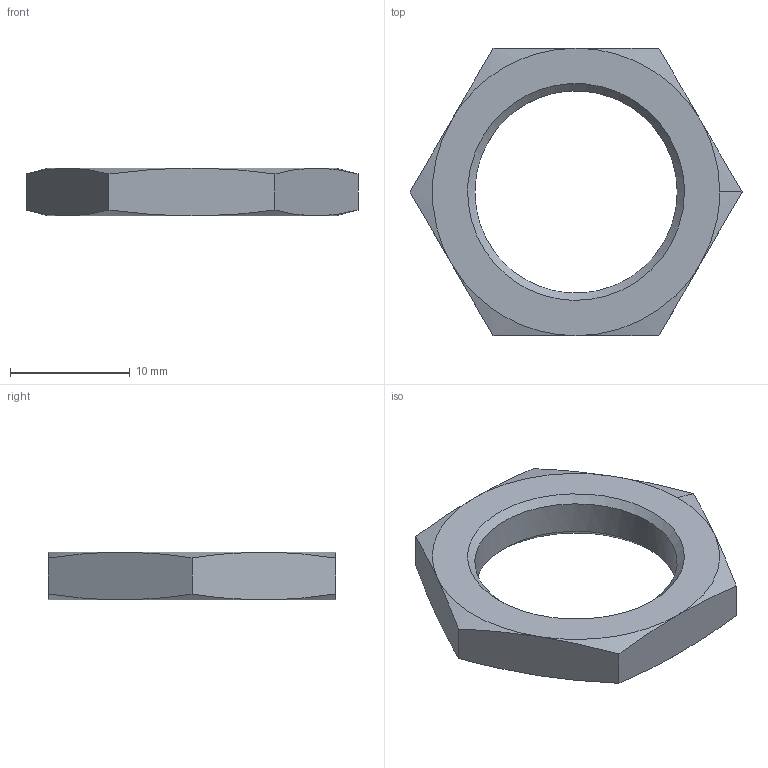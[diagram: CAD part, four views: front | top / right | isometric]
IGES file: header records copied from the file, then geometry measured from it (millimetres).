
Global section: file name: D:\tmp\DC5006.igs; preprocessor: I-DEAS 3D IGES Translator 11; date: 20060621.084531; units: millimetre
Bounding box: 27.71 x 24 x 4 mm (x, y, z)
Volume: 1057.1 mm3; surface area: 1032.7 mm2
Topology: 1 solids, 1 shells, 25 faces, 53 edges, 30 vertices
Faces by surface type: bspline 25
